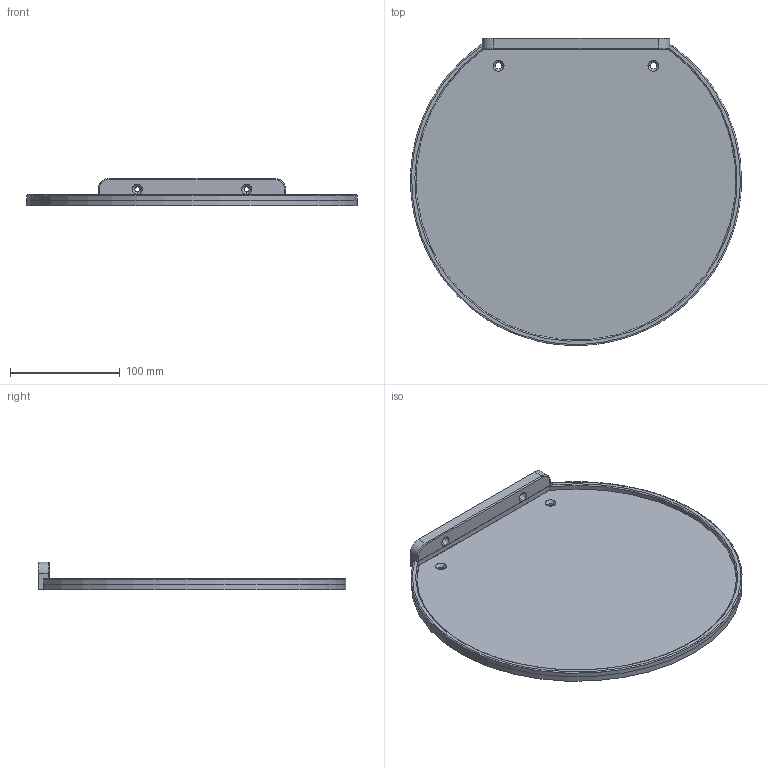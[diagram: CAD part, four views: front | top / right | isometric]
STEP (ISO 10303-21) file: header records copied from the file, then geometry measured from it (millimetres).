
FILE_DESCRIPTION(/* description */ (''),/* implementation_level */ '2;1');
FILE_NAME(/* name */ 'Regal groß ohne Winkel',/* time_stamp */ '2026-07-21T16:09:11+02:00',/* author */ (''),/* organization */ (''),/* preprocessor_version */ 'ST-DEVELOPER v19.2',/* originating_system */ 'Rhino 8.33',/* authorisation */ '');
FILE_SCHEMA (('CONFIG_CONTROL_DESIGN'));
Length unit declared in the file: millimetre
Products named in the file (1): Document
Bounding box: 301.92 x 280.44 x 25 mm (x, y, z)
Volume: 402664.1 mm3; surface area: 173815.8 mm2
Topology: 3 solids, 3 shells, 45 faces, 111 edges, 74 vertices
Faces by surface type: plane 17, bspline 14, cylinder 14
Entity records: 1836 total; most frequent: CARTESIAN_POINT 832, ORIENTED_EDGE 222, DIRECTION 117, EDGE_CURVE 111, AXIS2_PLACEMENT_3D 74, VERTEX_POINT 72, EDGE_LOOP 55, B_SPLINE_CURVE_WITH_KNOTS 47
